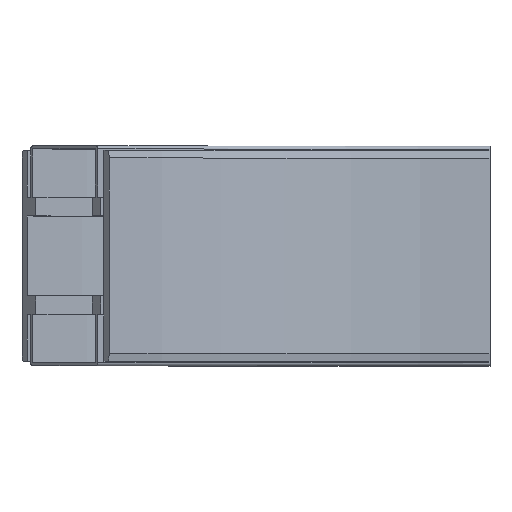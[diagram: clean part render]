
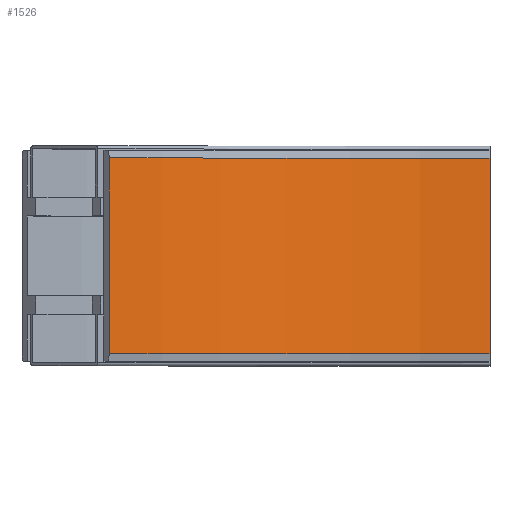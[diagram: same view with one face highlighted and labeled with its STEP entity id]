
A CAD part, top view. The second image highlights one B-rep face of the part: STEP entity #1526.
In plain terms, the highlighted cylindrical face has radius 357.5 mm (diameter 715 mm), a partial arc.
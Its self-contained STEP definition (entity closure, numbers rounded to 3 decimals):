
#80=CYLINDRICAL_SURFACE('',#1643,357.5);
#149=FACE_OUTER_BOUND('',#236,.T.);
#236=EDGE_LOOP('',(#1052,#1053,#1054,#1055));
#323=CIRCLE('',#1633,357.5);
#328=CIRCLE('',#1642,357.5);
#400=LINE('',#2215,#526);
#401=LINE('',#2216,#527);
#526=VECTOR('',#1808,10.);
#527=VECTOR('',#1809,10.);
#643=VERTEX_POINT('',#2183);
#644=VERTEX_POINT('',#2185);
#652=VERTEX_POINT('',#2209);
#653=VERTEX_POINT('',#2211);
#799=EDGE_CURVE('',#643,#644,#323,.T.);
#813=EDGE_CURVE('',#652,#653,#328,.T.);
#814=EDGE_CURVE('',#643,#652,#400,.T.);
#815=EDGE_CURVE('',#644,#653,#401,.T.);
#1052=ORIENTED_EDGE('',*,*,#814,.T.);
#1053=ORIENTED_EDGE('',*,*,#813,.T.);
#1054=ORIENTED_EDGE('',*,*,#815,.F.);
#1055=ORIENTED_EDGE('',*,*,#799,.F.);
#1526=ADVANCED_FACE('',(#149),#80,.F.);
#1633=AXIS2_PLACEMENT_3D('',#2186,#1777,#1778);
#1642=AXIS2_PLACEMENT_3D('',#2213,#1804,#1805);
#1643=AXIS2_PLACEMENT_3D('',#2214,#1806,#1807);
#1777=DIRECTION('center_axis',(0.,1.,0.));
#1778=DIRECTION('ref_axis',(0.,0.,-1.));
#1804=DIRECTION('center_axis',(0.,1.,0.));
#1805=DIRECTION('ref_axis',(0.,0.,-1.));
#1806=DIRECTION('center_axis',(0.,1.,0.));
#1807=DIRECTION('ref_axis',(0.,0.,-1.));
#1808=DIRECTION('',(0.,1.,0.));
#1809=DIRECTION('',(0.,1.,0.));
#2183=CARTESIAN_POINT('',(0.,-65.,42.5));
#2185=CARTESIAN_POINT('',(-252.791,-65.,147.209));
#2186=CARTESIAN_POINT('Origin',(0.,-65.,
400.));
#2209=CARTESIAN_POINT('',(0.,65.,42.5));
#2211=CARTESIAN_POINT('',(-252.791,65.,147.209));
#2213=CARTESIAN_POINT('Origin',(0.,65.,400.));
#2214=CARTESIAN_POINT('Origin',(0.,0.,400.));
#2215=CARTESIAN_POINT('',(0.,-65.,42.5));
#2216=CARTESIAN_POINT('',(-252.791,-65.,147.209));
